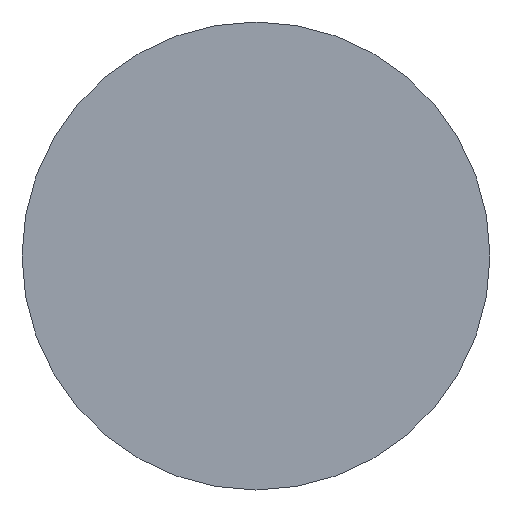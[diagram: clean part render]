
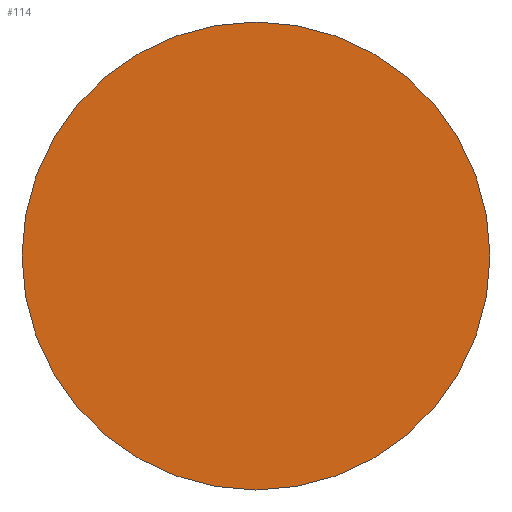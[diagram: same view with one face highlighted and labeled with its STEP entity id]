
A CAD part, left-side view. The second image highlights one B-rep face of the part: STEP entity #114.
In plain terms, the highlighted planar face has unit normal (-1, 0, 0).
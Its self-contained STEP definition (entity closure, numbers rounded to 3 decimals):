
#8 = ORIENTED_EDGE ( 'NONE', *, *, #119, .T. ) ;
#27 = ORIENTED_EDGE ( 'NONE', *, *, #116, .T. ) ;
#33 = EDGE_LOOP ( 'NONE', ( #27, #8 ) ) ;
#35 = CIRCLE ( 'NONE', #122, 5.5 ) ;
#52 = CARTESIAN_POINT ( 'NONE',  ( -245., 0., -5.5 ) ) ;
#53 = CARTESIAN_POINT ( 'NONE',  ( -245., 0., 0. ) ) ;
#54 = PLANE ( 'NONE',  #133 ) ;
#55 = DIRECTION ( 'NONE',  ( -1., 0., 0. ) ) ;
#56 = DIRECTION ( 'NONE',  ( 0., 0., 1. ) ) ;
#62 = CARTESIAN_POINT ( 'NONE',  ( -245., 0., 5.5 ) ) ;
#67 = CARTESIAN_POINT ( 'NONE',  ( -245., 0., 0. ) ) ;
#69 = DIRECTION ( 'NONE',  ( -1., 0., 0. ) ) ;
#70 = DIRECTION ( 'NONE',  ( 0., 0., 1. ) ) ;
#72 = CARTESIAN_POINT ( 'NONE',  ( -245., 0., 0. ) ) ;
#73 = DIRECTION ( 'NONE',  ( -1., 0., 0. ) ) ;
#74 = DIRECTION ( 'NONE',  ( 0., 0., 1. ) ) ;
#77 = VERTEX_POINT ( 'NONE', #62 ) ;
#80 = VERTEX_POINT ( 'NONE', #52 ) ;
#109 = FACE_OUTER_BOUND ( 'NONE', #33, .T. ) ;
#114 = ADVANCED_FACE ( 'NONE', ( #109 ), #54, .T. ) ;
#116 = EDGE_CURVE ( 'NONE', #77, #80, #139, .T. ) ;
#119 = EDGE_CURVE ( 'NONE', #80, #77, #35, .T. ) ;
#122 = AXIS2_PLACEMENT_3D ( 'NONE', #72, #73, #74 ) ;
#123 = AXIS2_PLACEMENT_3D ( 'NONE', #67, #69, #70 ) ;
#133 = AXIS2_PLACEMENT_3D ( 'NONE', #53, #55, #56 ) ;
#139 = CIRCLE ( 'NONE', #123, 5.5 ) ;
